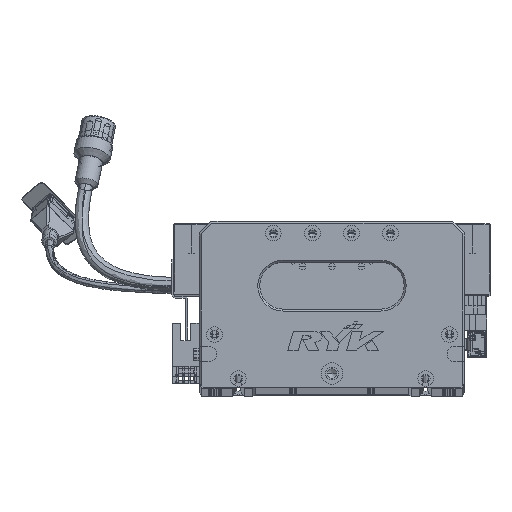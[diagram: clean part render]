
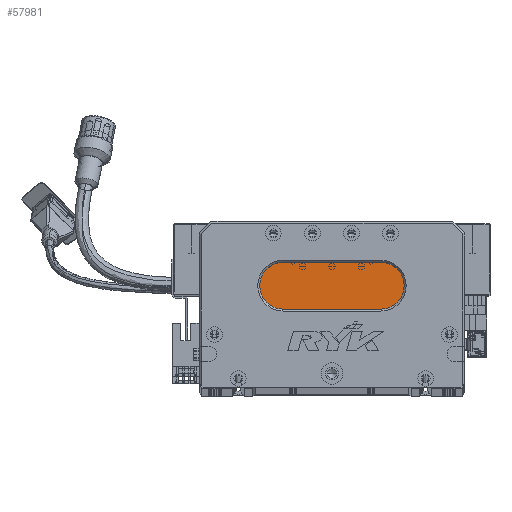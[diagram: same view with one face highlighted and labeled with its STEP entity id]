
A CAD part, top view. The second image highlights one B-rep face of the part: STEP entity #57981.
In plain terms, the highlighted planar face has unit normal (0, 0, 1) as drawn and (0, 0, -1) by its records, which use the part's own axes.
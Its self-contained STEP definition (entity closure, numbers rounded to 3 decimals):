
#903 = EDGE_CURVE ( 'NONE', #55813, #95911, #27034, .T. ) ;
#10204 = VERTEX_POINT ( 'NONE', #67906 ) ;
#17517 = DIRECTION ( 'NONE',  ( 0., 0., -1. ) ) ;
#17846 = CIRCLE ( 'NONE', #117080, 12. ) ;
#18249 = EDGE_CURVE ( 'NONE', #58285, #93709, #48988, .T. ) ;
#21655 = ORIENTED_EDGE ( 'NONE', *, *, #119998, .T. ) ;
#22880 = DIRECTION ( 'NONE',  ( 0., 0., -1. ) ) ;
#27034 = CIRCLE ( 'NONE', #105120, 12. ) ;
#28104 = FACE_OUTER_BOUND ( 'NONE', #40140, .T. ) ;
#29069 = PLANE ( 'NONE',  #85103 ) ;
#32890 = CARTESIAN_POINT ( 'NONE',  ( 93., 40., 13. ) ) ;
#37135 = DIRECTION ( 'NONE',  ( -1., 0., 0. ) ) ;
#40140 = EDGE_LOOP ( 'NONE', ( #90232, #79563, #95963, #21655, #117263 ) ) ;
#41948 = VECTOR ( 'NONE', #113478, 1000. ) ;
#43724 = DIRECTION ( 'NONE',  ( -1., 0., 0. ) ) ;
#44734 = DIRECTION ( 'NONE',  ( -1., 0., 0. ) ) ;
#45247 = DIRECTION ( 'NONE',  ( -1., 0., 0. ) ) ;
#48988 = CIRCLE ( 'NONE', #95353, 12. ) ;
#49099 = CARTESIAN_POINT ( 'NONE',  ( 43., 40., 13. ) ) ;
#55813 = VERTEX_POINT ( 'NONE', #85560 ) ;
#57981 = ADVANCED_FACE ( 'NONE', ( #28104 ), #29069, .T. ) ;
#58285 = VERTEX_POINT ( 'NONE', #49099 ) ;
#65965 = VECTOR ( 'NONE', #45247, 1000. ) ;
#66476 = DIRECTION ( 'NONE',  ( -1., 0., 0. ) ) ;
#67906 = CARTESIAN_POINT ( 'NONE',  ( 43., 64., 13. ) ) ;
#71689 = CARTESIAN_POINT ( 'NONE',  ( 31., 52., 13. ) ) ;
#79563 = ORIENTED_EDGE ( 'NONE', *, *, #81617, .T. ) ;
#81617 = EDGE_CURVE ( 'NONE', #95911, #58285, #95720, .T. ) ;
#83647 = CARTESIAN_POINT ( 'NONE',  ( 93., 52., 13. ) ) ;
#85103 = AXIS2_PLACEMENT_3D ( 'NONE', #95627, #86422, #66476 ) ;
#85560 = CARTESIAN_POINT ( 'NONE',  ( 93., 64., 13. ) ) ;
#86422 = DIRECTION ( 'NONE',  ( 0., 0., -1. ) ) ;
#90232 = ORIENTED_EDGE ( 'NONE', *, *, #903, .T. ) ;
#93709 = VERTEX_POINT ( 'NONE', #71689 ) ;
#95353 = AXIS2_PLACEMENT_3D ( 'NONE', #120470, #110494, #44734 ) ;
#95627 = CARTESIAN_POINT ( 'NONE',  ( 93., 52., 13. ) ) ;
#95720 = LINE ( 'NONE', #120985, #65965 ) ;
#95911 = VERTEX_POINT ( 'NONE', #32890 ) ;
#95963 = ORIENTED_EDGE ( 'NONE', *, *, #18249, .T. ) ;
#104700 = CARTESIAN_POINT ( 'NONE',  ( 93., 64., 13. ) ) ;
#105120 = AXIS2_PLACEMENT_3D ( 'NONE', #83647, #17517, #37135 ) ;
#110494 = DIRECTION ( 'NONE',  ( 0., 0., -1. ) ) ;
#113478 = DIRECTION ( 'NONE',  ( 1., 0., 0. ) ) ;
#117080 = AXIS2_PLACEMENT_3D ( 'NONE', #118256, #22880, #43724 ) ;
#117263 = ORIENTED_EDGE ( 'NONE', *, *, #119156, .T. ) ;
#117904 = LINE ( 'NONE', #104700, #41948 ) ;
#118256 = CARTESIAN_POINT ( 'NONE',  ( 43., 52., 13. ) ) ;
#119156 = EDGE_CURVE ( 'NONE', #10204, #55813, #117904, .T. ) ;
#119998 = EDGE_CURVE ( 'NONE', #93709, #10204, #17846, .T. ) ;
#120470 = CARTESIAN_POINT ( 'NONE',  ( 43., 52., 13. ) ) ;
#120985 = CARTESIAN_POINT ( 'NONE',  ( 93., 40., 13. ) ) ;
